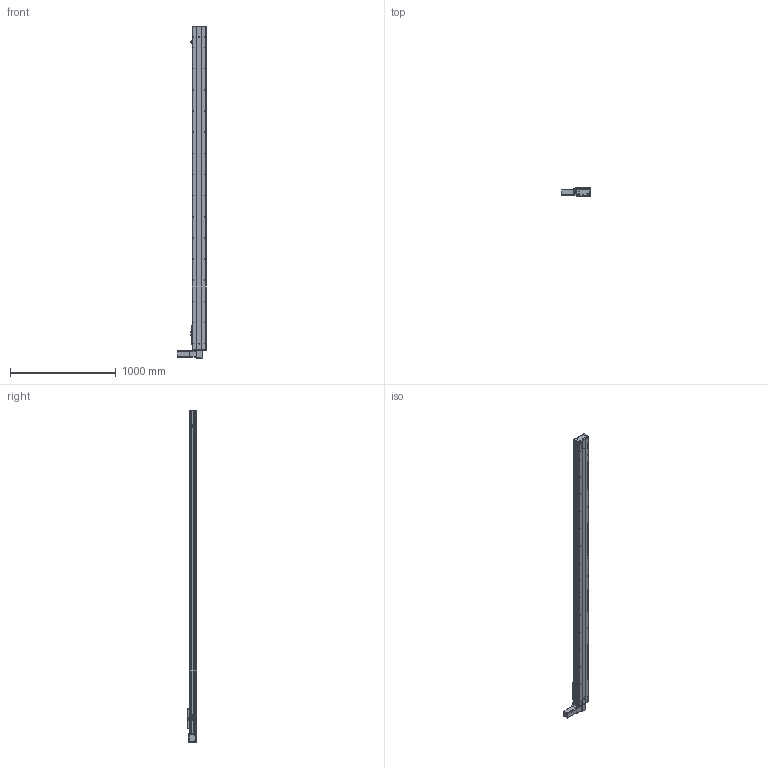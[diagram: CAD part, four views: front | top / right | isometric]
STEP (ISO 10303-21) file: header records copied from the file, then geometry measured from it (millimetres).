
FILE_DESCRIPTION (( 'STEP AP203' ), '1' );
FILE_NAME ('Y135CB-D90-S2750-BD-P400W.STEP', '2020-02-19T06:20:19', ( '微软用户' ), ( '微软中国' ), 'SwSTEP 2.0', 'SolidWorks 2017', '' );
FILE_SCHEMA (( 'CONFIG_CONTROL_DESIGN' ));
Length unit declared in the file: millimetre
Products named in the file (16): Y100-135俋离換覜ん--; C-詩湍揤踡え-陔; Y135C-陔俋离換覜結え-; Y135CB-耜裔; 5C--俋欶; 135CB---遴掛极.-; C-雄赽釱--; 35CB---喘謫眊楊擘啣; Y10B--々湍喘謫眊--666; 0B-埴倛裔啣; 0B-薊粣ん眊; 0B-源倛裔啣; Y135CB-D90-S2750-BD-P400W; san松下电机400不带刹车----; 135CB--詩湍-CE; 5CB --掛极耜裔啣-
Assembly tree (19 placements, depth 2):
  Y135CB-D90-S2750-BD-P400W
    Y135CB-耜裔
    135CB---遴掛极.-
    35CB---喘謫眊楊擘啣
    0B-埴倛裔啣
    0B-源倛裔啣
    san松下电机400不带刹车----
    5CB --掛极耜裔啣-  x2
    C-詩湍揤踡え-陔  x2
    135CB--詩湍-CE
    Y100-135俋离換覜ん--  x3
    Y135C-陔俋离換覜結え-
    5C--俋欶
    C-雄赽釱--
    Y10B--々湍喘謫眊--666
    0B-薊粣ん眊
Bounding box: 272 x 91 x 3138 mm (x, y, z)
Volume: 8931330.1 mm3; surface area: 3496937.3 mm2
Topology: 19 solids, 19 shells, 891 faces, 2428 edges, 1608 vertices
Faces by surface type: cylinder 460, plane 415, cone 16
Entity records: 27824 total; most frequent: CARTESIAN_POINT 4643, DIRECTION 4640, ORIENTED_EDGE 4332, EDGE_CURVE 2166, AXIS2_PLACEMENT_3D 1713, VERTEX_POINT 1436, LINE 1214, VECTOR 1214
